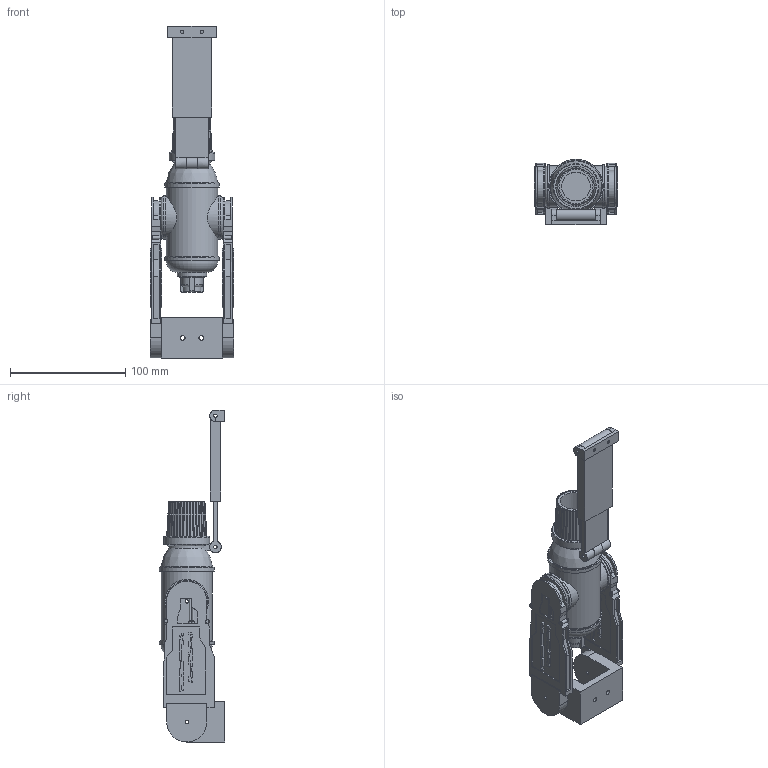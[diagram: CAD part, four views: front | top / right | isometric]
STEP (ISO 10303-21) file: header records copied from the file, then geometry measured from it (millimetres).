
FILE_DESCRIPTION(/* description */ (''),/* implementation_level */ '2;1');
FILE_NAME(/* name */ 'D:/Users/ianhu/Documents/Robots/In Progress/Booster Original.step',/* time_stamp */ '2020-05-06T17:37:26+09:00',/* author */ (''),/* organization */ (''),/* preprocessor_version */ 'ST-DEVELOPER v18.1',/* originating_system */ 'Autodesk Translation Framework v9.2.0.1227',/* authorisation */ '');
FILE_SCHEMA (('AUTOMOTIVE_DESIGN { 1 0 10303 214 3 1 1 }'));
Length unit declared in the file: millimetre
Products named in the file (7): Booster Restart V2 Slider Correction; Booster Side Plate New Revision Combo; Booster Side Plate; Booster Side Combo; Booster Side Plate New Revision Combo v1(Mirror); Booster Side Plate(Mirror); Booster Side Combo(Mirror)
Assembly tree (6 placements, depth 3):
  Booster Restart V2 Slider Correction
    Booster Side Plate New Revision Combo
      Booster Side Plate
      Booster Side Combo
    Booster Side Plate New Revision Combo v1(Mirror)
      Booster Side Plate(Mirror)
      Booster Side Combo(Mirror)
Bounding box: 72.2 x 56.71 x 288.64 mm (x, y, z)
Volume: 297132.4 mm3; surface area: 101792.8 mm2
Topology: 10 solids, 10 shells, 868 faces, 2462 edges, 1634 vertices
Faces by surface type: plane 685, cylinder 102, cone 46, torus 34, bspline 1
Full cylindrical faces by diameter (mm): 3 x15, 3.594 x8, 4 x2, 25 x1, 25.443 x1, 36 x2, 38 x2, 39.796 x1, 44.58 x1, 45.58 x2, 45.581 x2, 47.625 x2
Entity records: 28815 total; most frequent: CARTESIAN_POINT 5950, ORIENTED_EDGE 4916, DIRECTION 4482, EDGE_CURVE 2458, LINE 1908, VECTOR 1908, VERTEX_POINT 1634, AXIS2_PLACEMENT_3D 1287
